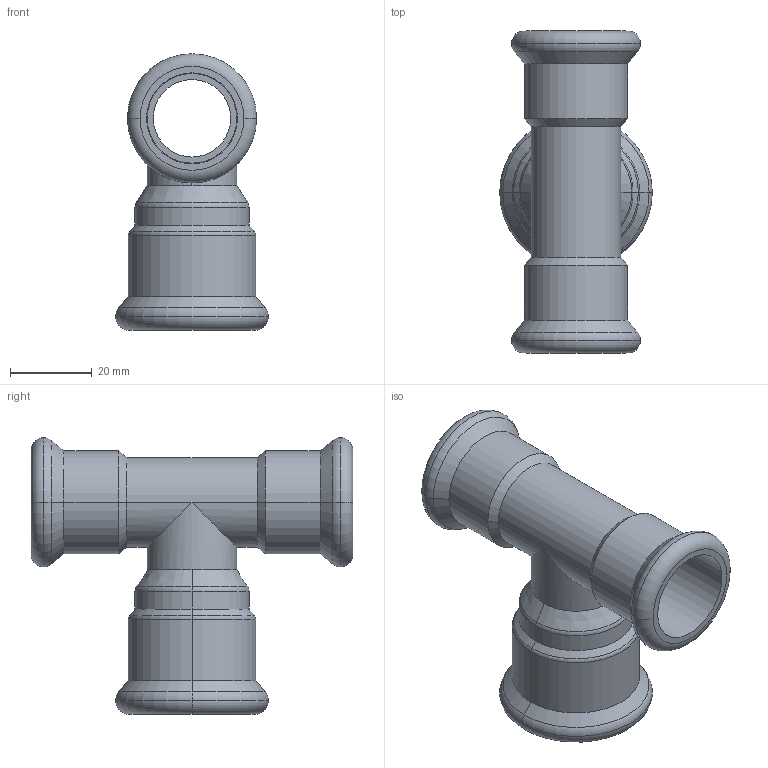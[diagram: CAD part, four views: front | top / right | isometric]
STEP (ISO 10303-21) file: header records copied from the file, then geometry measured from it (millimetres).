
FILE_DESCRIPTION(('CoCreate Modeling STEP Export'),'2;1');
FILE_NAME('C1415 22x28x22.stp','2014-11-11T17:07:00',(''),(''),'CoCreate Modeling STEP processor for AP214 (Solid Model)','CoCreate Modeling 17.00A 17-Jun-2010 (C) Parametric Technology GmbH','');
FILE_SCHEMA(('AUTOMOTIVE_DESIGN { 1 0 10303 214 1 1 1 1 }'));
Length unit declared in the file: millimetre
Products named in the file (2): C1415_22x28x22
Assembly tree (1 placements, depth 2):
  C1415_22x28x22
    C1415_22x28x22
Bounding box: 37.45 x 79 x 67.85 mm (x, y, z)
Volume: 19181.7 mm3; surface area: 20871.2 mm2
Topology: 1 solids, 1 shells, 76 faces, 165 edges, 99 vertices
Faces by surface type: cylinder 34, torus 16, cone 16, plane 10
Entity records: 2354 total; most frequent: CARTESIAN_POINT 921, ORIENTED_EDGE 330, DIRECTION 248, EDGE_CURVE 165, AXIS2_PLACEMENT_3D 100, VERTEX_POINT 99, EDGE_LOOP 86, FACE_OUTER_BOUND 76
